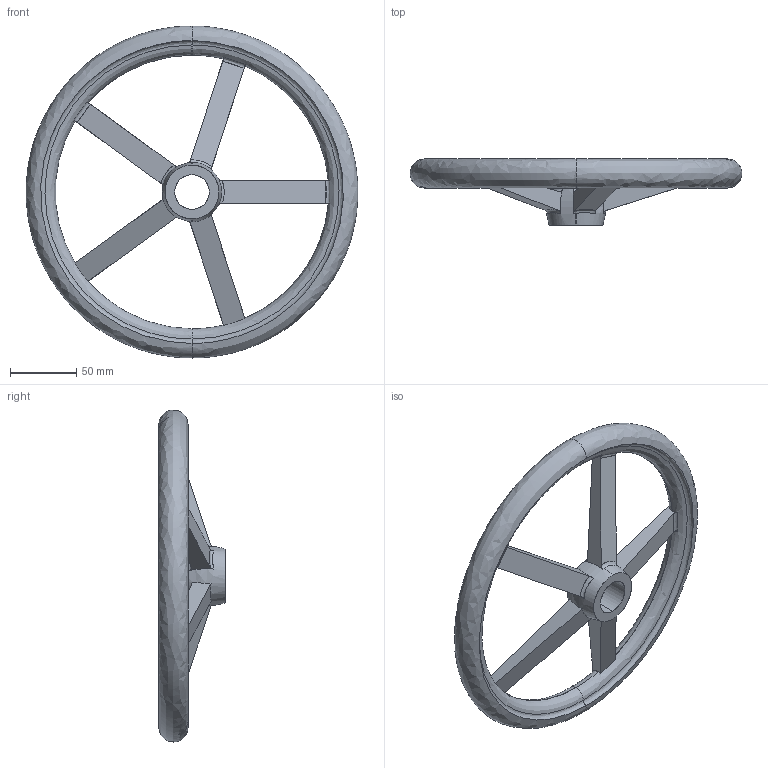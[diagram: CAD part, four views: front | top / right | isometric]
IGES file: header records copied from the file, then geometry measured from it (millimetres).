
Start section: SolidWorks IGES file using analytic representation for surfaces
Global section: file name: C:\Users\IanO\Desktop\Temp File\Process pending\77120_v2\77120_v2_20171108_IGES\77120.W0041.igs; native system: SolidWorks 2017; preprocessor: SolidWorks 2017; author: IanO; date: 171108.084102; units: millimetre
Bounding box: 250 x 50 x 250 mm (x, y, z)
Surface area: 79391.4 mm2 (no closed solid volume)
Topology: 0 solids, 0 shells, 51 faces, 1091 edges, 1083 vertices
Faces by surface type: bspline 49, revolution 2
